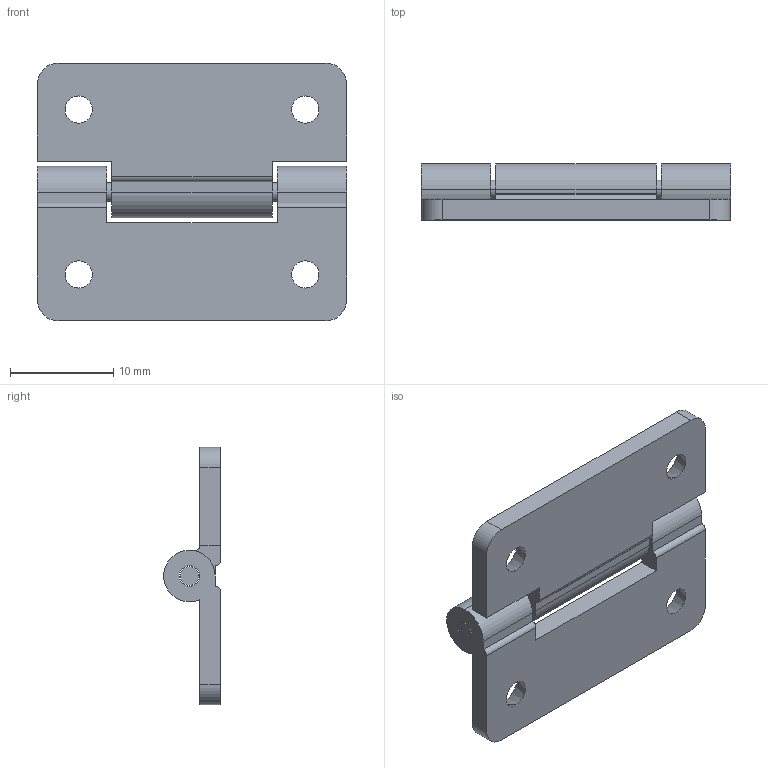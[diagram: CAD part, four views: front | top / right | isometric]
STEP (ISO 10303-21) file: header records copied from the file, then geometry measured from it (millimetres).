
FILE_DESCRIPTION (( 'STEP AP203' ), '1' );
FILE_NAME ('XG11-026-2.STEP', '2023-12-04T08:16:06', ( '' ), ( '' ), 'SwSTEP 2.0', 'SolidWorks 2020', '' );
FILE_SCHEMA (( 'CONFIG_CONTROL_DESIGN' ));
Length unit declared in the file: millimetre
Products named in the file (4): 錨璃1; XG11-026-2; 錨璃2; 錨璃3
Assembly tree (3 placements, depth 2):
  XG11-026-2
    錨璃1
    錨璃2
    錨璃3
Bounding box: 30 x 5.5 x 25 mm (x, y, z)
Volume: 1695.5 mm3; surface area: 2354.7 mm2
Topology: 3 solids, 3 shells, 56 faces, 150 edges, 100 vertices
Faces by surface type: cylinder 26, plane 22, cone 8
Entity records: 2224 total; most frequent: DIRECTION 342, CARTESIAN_POINT 312, ORIENTED_EDGE 300, EDGE_CURVE 150, AXIS2_PLACEMENT_3D 130, VERTEX_POINT 100, VECTOR 82, LINE 82
